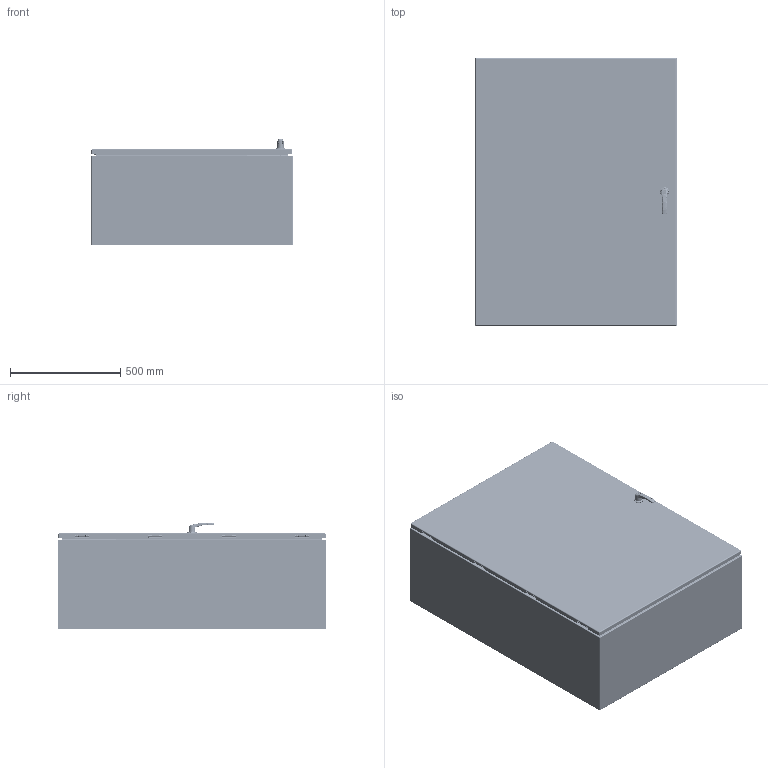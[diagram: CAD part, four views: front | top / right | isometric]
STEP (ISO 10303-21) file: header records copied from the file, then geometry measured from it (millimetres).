
FILE_DESCRIPTION(/* description */ ('5412ES 48" x 36" x 16" Assembly'),/* implementation_level */ '2;1');
FILE_NAME(/* name */ 'C:\Vault_Workspace\Inventor_Dwg\BoxCad\Result\5412ESB483616\e-mail\3D\5412ESB483616.stp',/* time_stamp */ '2022-03-23T17:27:01-04:00',/* author */ ('BoxCad'),/* organization */ (''),/* preprocessor_version */ 'ST-DEVELOPER v18.1',/* originating_system */ 'Autodesk Inventor 2020',/* authorisation */ '');
FILE_SCHEMA (('AUTOMOTIVE_DESIGN { 1 0 10303 214 3 1 1 }'));
Products named in the file (61): 5412ESB483616; 5412ESB483616B; 5412ESB483616B-P; STK-Q-16005; STUD_M6 x 16mm; STK-Q-07610; 881SP4836G; 881SP4836G-P; STK-Q-07310; 5412ESB483616C; 5412ESB483616C-P; 5412ESB483616G; STK-K-09800; STK-K-09800-2; STK-K-09800-3; STK-K-09800-4; STK-Q-33014; STK-Q-90398; STK-Q-40095; STK-Q-63410; STK-Q-16405; STK-Q-46020-48; STK-Q-46025-36-3; STK-Q-07220-1; STK-Q-07220-2; STK-Q-07220-3; STK-Q-07220-4; STK-Q-07220-5; STK-Q-07220-6; STK-Q-07220-7; STK-Q-07220-8; STK-Q-07220-9; STK-Q-07220-10; STK-Q-07220-A; STK-Q-07220-B; STK-Q-16055; STK-Q-46515-1; STK-Q-46515-B; STK-Q-46515-A; STK-P-03820R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
Assembly tree (141 placements, depth 4):
  5412ESB483616
    5412ESB483616B
      5412ESB483616B-P
      STK-Q-16005  x8
      STK-P-03820R
      STUD_M6 x 16mm
    STK-Q-07610  x8
    881SP4836G
      881SP4836G-P
    STK-Q-07310  x8
    5412ESB483616C
      5412ESB483616C-P
      5412ESB483616G
      STK-K-09800
        STK-Q-33014
        STK-Q-90398
        STK-Q-40095  x2
        STK-Q-63410  x2
      STK-K-09800-2
        STK-Q-33014
        STK-Q-90398
        STK-Q-40095  x2
        STK-Q-63410  x2
      STK-K-09800-3
        STK-Q-33014
        STK-Q-90398
        STK-Q-40095  x2
        STK-Q-63410  x2
      STK-K-09800-4
        STK-Q-33014
        STK-Q-90398
        STK-Q-40095  x2
        STK-Q-63410  x2
      STK-Q-16055  x11
      STK-Q-16405  x2
      STK-Q-46020-48  x2
      STK-Q-46025-36-3  x2
      STK-Q-07220-1
        STK-Q-07220-A
        STK-Q-07220-B
      STK-Q-07220-2
        STK-Q-07220-A
        STK-Q-07220-B
      STK-Q-07220-3
        STK-Q-07220-A
        STK-Q-07220-B
      STK-Q-07220-4
        STK-Q-07220-A
        STK-Q-07220-B
      STK-Q-07220-5
        STK-Q-07220-A
        STK-Q-07220-B
      STK-Q-07220-6
        STK-Q-07220-A
        STK-Q-07220-B
      STK-Q-07220-7
        STK-Q-07220-A
        STK-Q-07220-B
      STK-Q-07220-8
        STK-Q-07220-A
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Bounding box: 914.85 x 1219.2 x 482.99 mm (x, y, z)
Volume: 10677235.8 mm3; surface area: 11211022.9 mm2
Topology: 114 solids, 114 shells, 18555 faces, 50084 edges, 32010 vertices
Faces by surface type: bspline 6962, cylinder 5219, plane 4304, torus 1435, sphere 328, cone 307
Full cylindrical faces by diameter (mm): 0 x1, 0.75 x22, 0.762 x22, 1 x16, 1.1 x16, 1.581 x1, 2.459 x1, 3.2 x8, 4.191 x146, 4.2 x2, 4.5 x11, 4.521 x16, 4.75 x4, 4.85 x32, 4.95 x8, 5 x10, 5.1 x35, 5.105 x13, 5.11 x1, 5.156 x2, 5.6 x4, 5.9 x28, 6.015 x146, 6.65 x8, 6.8 x10, 6.85 x32, 7.3 x4, 7.366 x4, 7.468 x2, 7.5 x2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
Entity records: 216034 total; most frequent: CARTESIAN_POINT 80084, ORIENTED_EDGE 30204, DIRECTION 24011, EDGE_CURVE 15102, VERTEX_POINT 9588, AXIS2_PLACEMENT_3D 8880, EDGE_LOOP 6442, LINE 6251
